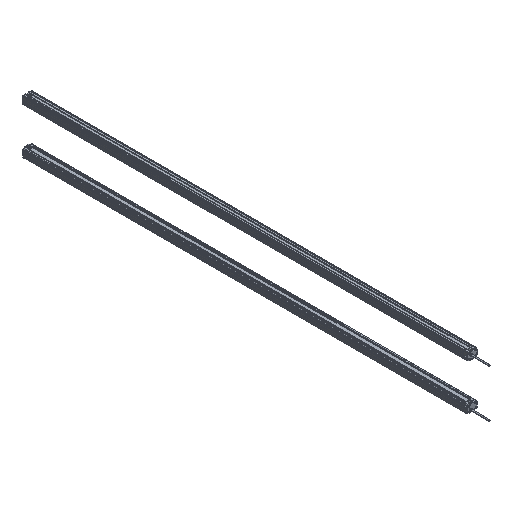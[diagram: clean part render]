
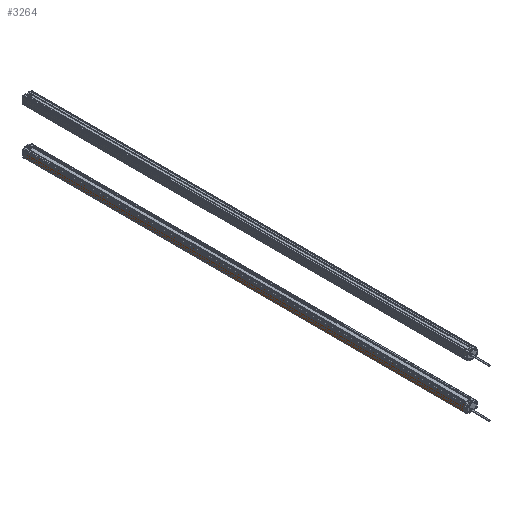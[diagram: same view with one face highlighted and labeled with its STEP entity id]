
A CAD part, isometric view. The second image highlights one B-rep face of the part: STEP entity #3264.
In plain terms, the highlighted planar face has unit normal (-1, 0, 0).
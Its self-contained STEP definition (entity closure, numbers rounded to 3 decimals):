
#72 = CARTESIAN_POINT ( 'NONE',  ( -12.5, -1160., -9.2 ) ) ;
#129 = ORIENTED_EDGE ( 'NONE', *, *, #6497, .T. ) ;
#166 = LINE ( 'NONE', #4452, #10606 ) ;
#709 = DIRECTION ( 'NONE',  ( 0., 0., 1. ) ) ;
#1039 = PLANE ( 'NONE',  #5278 ) ;
#1215 = VERTEX_POINT ( 'NONE', #6904 ) ;
#1949 = DIRECTION ( 'NONE',  ( 0., 1., 0. ) ) ;
#3264 = ADVANCED_FACE ( 'NONE', ( #4260 ), #1039, .T. ) ;
#3341 = CARTESIAN_POINT ( 'NONE',  ( -12.5, 0., 8.293 ) ) ;
#3392 = VERTEX_POINT ( 'NONE', #3341 ) ;
#3968 = EDGE_CURVE ( 'NONE', #9448, #3392, #9199, .T. ) ;
#4074 = VECTOR ( 'NONE', #9463, 1000. ) ;
#4260 = FACE_OUTER_BOUND ( 'NONE', #7502, .T. ) ;
#4265 = VECTOR ( 'NONE', #709, 1000. ) ;
#4452 = CARTESIAN_POINT ( 'NONE',  ( -12.5, -1160., 8.293 ) ) ;
#4453 = LINE ( 'NONE', #10325, #4074 ) ;
#5079 = ORIENTED_EDGE ( 'NONE', *, *, #7819, .T. ) ;
#5278 = AXIS2_PLACEMENT_3D ( 'NONE', #7877, #6950, #6874 ) ;
#5282 = LINE ( 'NONE', #10098, #9412 ) ;
#6497 = EDGE_CURVE ( 'NONE', #1215, #3392, #166, .T. ) ;
#6788 = EDGE_CURVE ( 'NONE', #6876, #9448, #5282, .T. ) ;
#6874 = DIRECTION ( 'NONE',  ( 0., 0., 1. ) ) ;
#6876 = VERTEX_POINT ( 'NONE', #72 ) ;
#6904 = CARTESIAN_POINT ( 'NONE',  ( -12.5, -1160., 8.293 ) ) ;
#6950 = DIRECTION ( 'NONE',  ( -1., 0., 0. ) ) ;
#7502 = EDGE_LOOP ( 'NONE', ( #10820, #9813, #5079, #129 ) ) ;
#7590 = CARTESIAN_POINT ( 'NONE',  ( -12.5, 0., -9.2 ) ) ;
#7819 = EDGE_CURVE ( 'NONE', #6876, #1215, #4453, .T. ) ;
#7877 = CARTESIAN_POINT ( 'NONE',  ( -12.5, -1160., -9.2 ) ) ;
#9199 = LINE ( 'NONE', #10850, #4265 ) ;
#9283 = DIRECTION ( 'NONE',  ( 0., 1., 0. ) ) ;
#9412 = VECTOR ( 'NONE', #9283, 1000. ) ;
#9448 = VERTEX_POINT ( 'NONE', #7590 ) ;
#9463 = DIRECTION ( 'NONE',  ( 0., 0., 1. ) ) ;
#9813 = ORIENTED_EDGE ( 'NONE', *, *, #6788, .F. ) ;
#10098 = CARTESIAN_POINT ( 'NONE',  ( -12.5, -1160., -9.2 ) ) ;
#10325 = CARTESIAN_POINT ( 'NONE',  ( -12.5, -1160., -9.2 ) ) ;
#10606 = VECTOR ( 'NONE', #1949, 1000. ) ;
#10820 = ORIENTED_EDGE ( 'NONE', *, *, #3968, .F. ) ;
#10850 = CARTESIAN_POINT ( 'NONE',  ( -12.5, 0., -9.2 ) ) ;
